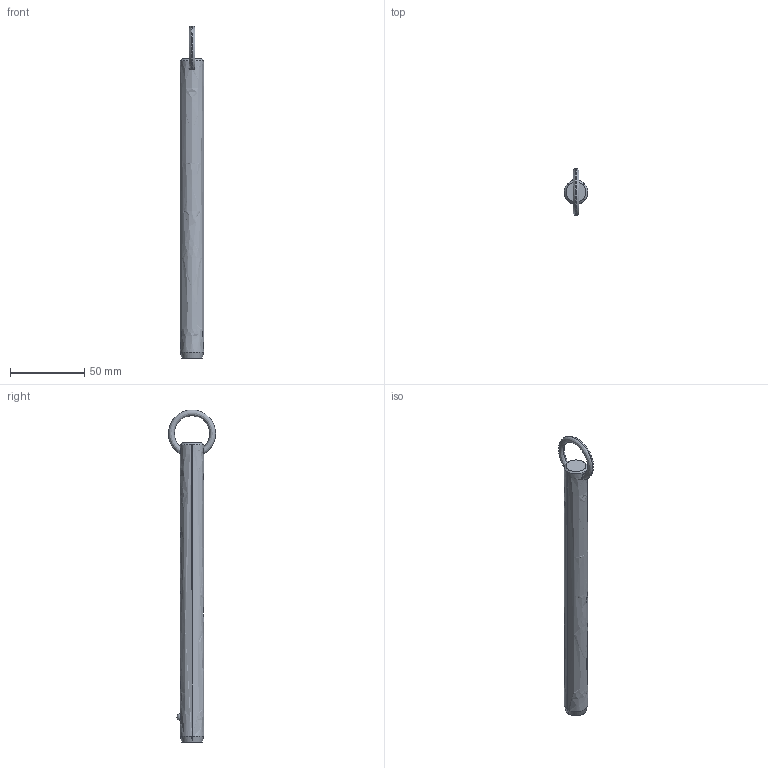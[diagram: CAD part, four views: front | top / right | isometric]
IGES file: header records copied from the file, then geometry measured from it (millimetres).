
Start section: SolidWorks IGES file using analytic representation for surfaces
Global section: file name: C:\Users\liam_\OneDrive\Documents\WORK\Work for WixRoyd\Job Files\J-00019 - Matt Davis CAD Checking\04. CAD Drawings\automotion20190605\P1250.2_v2\P1250.2_v2_20190729_IGES\P1250.062-680.igs; native system: SolidWorks 2017; preprocessor: SolidWorks 2017; author: liam_; date: 190729.234330; units: millimetre
Bounding box: 15.8 x 31.7 x 223.4 mm (x, y, z)
Surface area: 11160.8 mm2 (no closed solid volume)
Topology: 0 solids, 0 shells, 12 faces, 292 edges, 290 vertices
Faces by surface type: revolution 8, bspline 4
